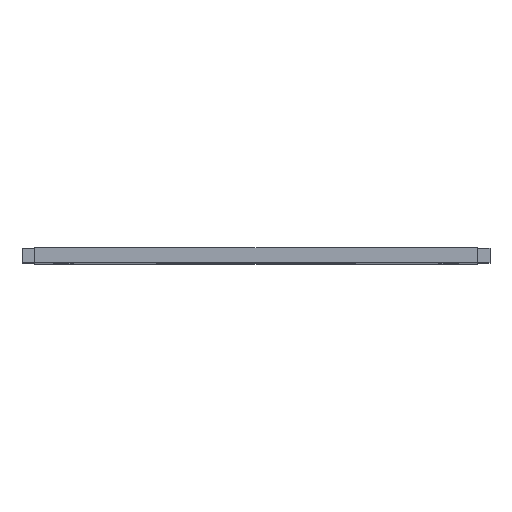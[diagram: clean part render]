
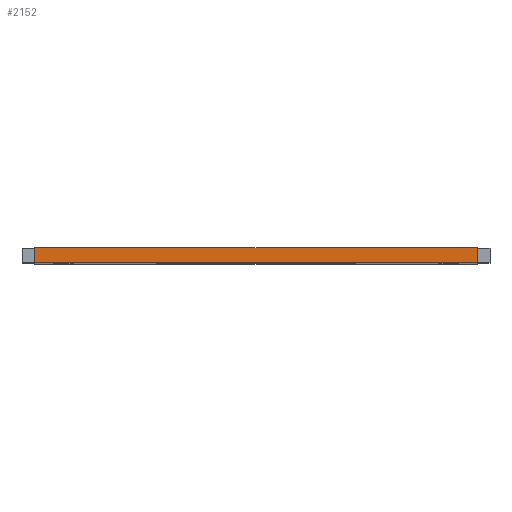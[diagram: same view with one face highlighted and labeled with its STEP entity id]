
A CAD part, top view. The second image highlights one B-rep face of the part: STEP entity #2152.
In plain terms, the highlighted planar face has unit normal (0, 0, 1).
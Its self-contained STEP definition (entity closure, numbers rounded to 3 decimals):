
#44 = PLANE('',#45);
#45 = AXIS2_PLACEMENT_3D('',#46,#47,#48);
#46 = CARTESIAN_POINT('',(-31.,15.,-149.));
#47 = DIRECTION('',(0.,1.,0.));
#48 = DIRECTION('',(0.,0.,1.));
#100 = PLANE('',#101);
#101 = AXIS2_PLACEMENT_3D('',#102,#103,#104);
#102 = CARTESIAN_POINT('',(-31.,17.,-149.));
#103 = DIRECTION('',(0.,1.,0.));
#104 = DIRECTION('',(0.,0.,1.));
#139 = EDGE_CURVE('',#140,#142,#144,.T.);
#140 = VERTEX_POINT('',#141);
#141 = CARTESIAN_POINT('',(-31.,15.,-1.));
#142 = VERTEX_POINT('',#143);
#143 = CARTESIAN_POINT('',(31.,15.,-1.));
#144 = SURFACE_CURVE('',#145,(#149,#156),.PCURVE_S1.);
#145 = LINE('',#146,#147);
#146 = CARTESIAN_POINT('',(-31.,15.,-1.));
#147 = VECTOR('',#148,1.);
#148 = DIRECTION('',(1.,0.,0.));
#149 = PCURVE('',#44,#150);
#150 = DEFINITIONAL_REPRESENTATION('',(#151),#155);
#151 = LINE('',#152,#153);
#152 = CARTESIAN_POINT('',(148.,0.));
#153 = VECTOR('',#154,1.);
#154 = DIRECTION('',(0.,1.));
#155 = ( GEOMETRIC_REPRESENTATION_CONTEXT(2) 
PARAMETRIC_REPRESENTATION_CONTEXT() REPRESENTATION_CONTEXT('2D SPACE',''
  ) );
#156 = PCURVE('',#157,#162);
#157 = PLANE('',#158);
#158 = AXIS2_PLACEMENT_3D('',#159,#160,#161);
#159 = CARTESIAN_POINT('',(-31.,15.,-1.));
#160 = DIRECTION('',(0.,0.,1.));
#161 = DIRECTION('',(1.,0.,0.));
#162 = DEFINITIONAL_REPRESENTATION('',(#163),#167);
#163 = LINE('',#164,#165);
#164 = CARTESIAN_POINT('',(0.,0.));
#165 = VECTOR('',#166,1.);
#166 = DIRECTION('',(1.,0.));
#167 = ( GEOMETRIC_REPRESENTATION_CONTEXT(2) 
PARAMETRIC_REPRESENTATION_CONTEXT() REPRESENTATION_CONTEXT('2D SPACE',''
  ) );
#185 = PLANE('',#186);
#186 = AXIS2_PLACEMENT_3D('',#187,#188,#189);
#187 = CARTESIAN_POINT('',(31.,15.,-149.));
#188 = DIRECTION('',(1.,0.,0.));
#189 = DIRECTION('',(0.,0.,1.));
#648 = PLANE('',#649);
#649 = AXIS2_PLACEMENT_3D('',#650,#651,#652);
#650 = CARTESIAN_POINT('',(-31.,15.,-149.));
#651 = DIRECTION('',(1.,0.,0.));
#652 = DIRECTION('',(0.,0.,1.));
#1262 = EDGE_CURVE('',#1263,#1265,#1267,.T.);
#1263 = VERTEX_POINT('',#1264);
#1264 = CARTESIAN_POINT('',(-31.,17.,-1.));
#1265 = VERTEX_POINT('',#1266);
#1266 = CARTESIAN_POINT('',(31.,17.,-1.));
#1267 = SURFACE_CURVE('',#1268,(#1272,#1279),.PCURVE_S1.);
#1268 = LINE('',#1269,#1270);
#1269 = CARTESIAN_POINT('',(-31.,17.,-1.));
#1270 = VECTOR('',#1271,1.);
#1271 = DIRECTION('',(1.,0.,0.));
#1272 = PCURVE('',#100,#1273);
#1273 = DEFINITIONAL_REPRESENTATION('',(#1274),#1278);
#1274 = LINE('',#1275,#1276);
#1275 = CARTESIAN_POINT('',(148.,0.));
#1276 = VECTOR('',#1277,1.);
#1277 = DIRECTION('',(0.,1.));
#1278 = ( GEOMETRIC_REPRESENTATION_CONTEXT(2) 
PARAMETRIC_REPRESENTATION_CONTEXT() REPRESENTATION_CONTEXT('2D SPACE',''
  ) );
#1279 = PCURVE('',#157,#1280);
#1280 = DEFINITIONAL_REPRESENTATION('',(#1281),#1285);
#1281 = LINE('',#1282,#1283);
#1282 = CARTESIAN_POINT('',(0.,2.));
#1283 = VECTOR('',#1284,1.);
#1284 = DIRECTION('',(1.,0.));
#1285 = ( GEOMETRIC_REPRESENTATION_CONTEXT(2) 
PARAMETRIC_REPRESENTATION_CONTEXT() REPRESENTATION_CONTEXT('2D SPACE',''
  ) );
#2152 = ADVANCED_FACE('',(#2153),#157,.T.);
#2153 = FACE_BOUND('',#2154,.T.);
#2154 = EDGE_LOOP('',(#2155,#2176,#2177,#2198));
#2155 = ORIENTED_EDGE('',*,*,#2156,.F.);
#2156 = EDGE_CURVE('',#140,#1263,#2157,.T.);
#2157 = SURFACE_CURVE('',#2158,(#2162,#2169),.PCURVE_S1.);
#2158 = LINE('',#2159,#2160);
#2159 = CARTESIAN_POINT('',(-31.,15.,-1.));
#2160 = VECTOR('',#2161,1.);
#2161 = DIRECTION('',(0.,1.,0.));
#2162 = PCURVE('',#157,#2163);
#2163 = DEFINITIONAL_REPRESENTATION('',(#2164),#2168);
#2164 = LINE('',#2165,#2166);
#2165 = CARTESIAN_POINT('',(0.,0.));
#2166 = VECTOR('',#2167,1.);
#2167 = DIRECTION('',(0.,1.));
#2168 = ( GEOMETRIC_REPRESENTATION_CONTEXT(2) 
PARAMETRIC_REPRESENTATION_CONTEXT() REPRESENTATION_CONTEXT('2D SPACE',''
  ) );
#2169 = PCURVE('',#648,#2170);
#2170 = DEFINITIONAL_REPRESENTATION('',(#2171),#2175);
#2171 = LINE('',#2172,#2173);
#2172 = CARTESIAN_POINT('',(148.,0.));
#2173 = VECTOR('',#2174,1.);
#2174 = DIRECTION('',(0.,-1.));
#2175 = ( GEOMETRIC_REPRESENTATION_CONTEXT(2) 
PARAMETRIC_REPRESENTATION_CONTEXT() REPRESENTATION_CONTEXT('2D SPACE',''
  ) );
#2176 = ORIENTED_EDGE('',*,*,#139,.T.);
#2177 = ORIENTED_EDGE('',*,*,#2178,.T.);
#2178 = EDGE_CURVE('',#142,#1265,#2179,.T.);
#2179 = SURFACE_CURVE('',#2180,(#2184,#2191),.PCURVE_S1.);
#2180 = LINE('',#2181,#2182);
#2181 = CARTESIAN_POINT('',(31.,15.,-1.));
#2182 = VECTOR('',#2183,1.);
#2183 = DIRECTION('',(0.,1.,0.));
#2184 = PCURVE('',#157,#2185);
#2185 = DEFINITIONAL_REPRESENTATION('',(#2186),#2190);
#2186 = LINE('',#2187,#2188);
#2187 = CARTESIAN_POINT('',(62.,0.));
#2188 = VECTOR('',#2189,1.);
#2189 = DIRECTION('',(0.,1.));
#2190 = ( GEOMETRIC_REPRESENTATION_CONTEXT(2) 
PARAMETRIC_REPRESENTATION_CONTEXT() REPRESENTATION_CONTEXT('2D SPACE',''
  ) );
#2191 = PCURVE('',#185,#2192);
#2192 = DEFINITIONAL_REPRESENTATION('',(#2193),#2197);
#2193 = LINE('',#2194,#2195);
#2194 = CARTESIAN_POINT('',(148.,0.));
#2195 = VECTOR('',#2196,1.);
#2196 = DIRECTION('',(0.,-1.));
#2197 = ( GEOMETRIC_REPRESENTATION_CONTEXT(2) 
PARAMETRIC_REPRESENTATION_CONTEXT() REPRESENTATION_CONTEXT('2D SPACE',''
  ) );
#2198 = ORIENTED_EDGE('',*,*,#1262,.F.);
